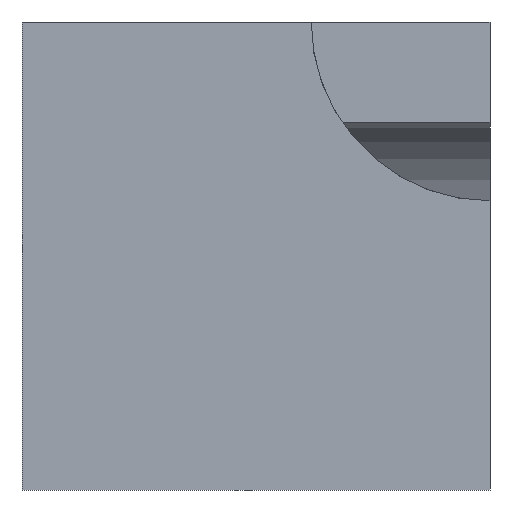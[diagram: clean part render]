
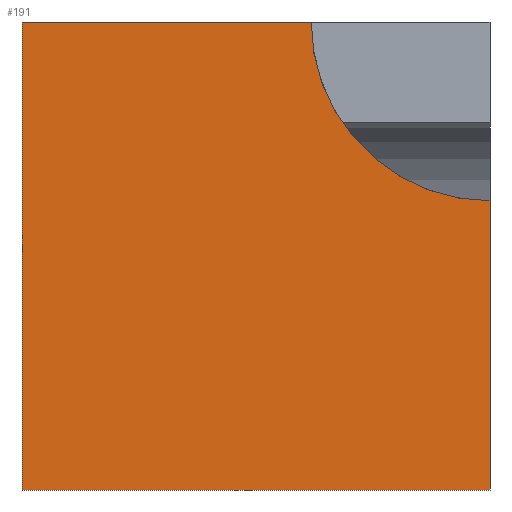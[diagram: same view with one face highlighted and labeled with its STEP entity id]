
A CAD part, front view. The second image highlights one B-rep face of the part: STEP entity #191.
In plain terms, the highlighted planar face has unit normal (0, -1, 0).
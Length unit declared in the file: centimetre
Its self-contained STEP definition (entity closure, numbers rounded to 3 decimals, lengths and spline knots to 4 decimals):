
#16 = EDGE_CURVE ( 'NONE', #377, #220, #265, .T. ) ;
#18 = CARTESIAN_POINT ( 'NONE',  ( 618.0201, 0., 1000. ) ) ;
#29 = ORIENTED_EDGE ( 'NONE', *, *, #315, .F. ) ;
#34 = PLANE ( 'NONE',  #464 ) ;
#50 = CARTESIAN_POINT ( 'NONE',  ( 1000., 0., 1000. ) ) ;
#74 = VECTOR ( 'NONE', #386, 100. ) ;
#84 = VECTOR ( 'NONE', #346, 100. ) ;
#85 = VERTEX_POINT ( 'NONE', #110 ) ;
#100 = ORIENTED_EDGE ( 'NONE', *, *, #448, .T. ) ;
#105 = CIRCLE ( 'NONE', #239, 381.9799 ) ;
#110 = CARTESIAN_POINT ( 'NONE',  ( 0., 0., 0. ) ) ;
#115 = DIRECTION ( 'NONE',  ( 0., 0., 1. ) ) ;
#135 = EDGE_LOOP ( 'NONE', ( #268, #29, #162, #100, #442 ) ) ;
#143 = EDGE_CURVE ( 'NONE', #477, #427, #301, .T. ) ;
#151 = CARTESIAN_POINT ( 'NONE',  ( 0., 0., 1000. ) ) ;
#162 = ORIENTED_EDGE ( 'NONE', *, *, #16, .F. ) ;
#179 = LINE ( 'NONE', #447, #84 ) ;
#188 = FACE_OUTER_BOUND ( 'NONE', #135, .T. ) ;
#191 = ADVANCED_FACE ( 'NONE', ( #188 ), #34, .F. ) ;
#203 = DIRECTION ( 'NONE',  ( 0., -1., 0. ) ) ;
#212 = VECTOR ( 'NONE', #217, 100. ) ;
#217 = DIRECTION ( 'NONE',  ( 1., 0., 0. ) ) ;
#220 = VERTEX_POINT ( 'NONE', #18 ) ;
#227 = CARTESIAN_POINT ( 'NONE',  ( 1000., 0., 0. ) ) ;
#232 = DIRECTION ( 'NONE',  ( 1., 0., 0. ) ) ;
#239 = AXIS2_PLACEMENT_3D ( 'NONE', #50, #203, #251 ) ;
#251 = DIRECTION ( 'NONE',  ( 0., 0., -1. ) ) ;
#264 = VECTOR ( 'NONE', #232, 100. ) ;
#265 = LINE ( 'NONE', #449, #264 ) ;
#268 = ORIENTED_EDGE ( 'NONE', *, *, #143, .F. ) ;
#284 = CARTESIAN_POINT ( 'NONE',  ( 0., 0., 0. ) ) ;
#301 = LINE ( 'NONE', #348, #74 ) ;
#315 = EDGE_CURVE ( 'NONE', #220, #477, #105, .T. ) ;
#346 = DIRECTION ( 'NONE',  ( 0., 0., -1. ) ) ;
#348 = CARTESIAN_POINT ( 'NONE',  ( 1000., 0., 1000. ) ) ;
#360 = EDGE_CURVE ( 'NONE', #85, #427, #465, .T. ) ;
#369 = CARTESIAN_POINT ( 'NONE',  ( 0., 0., 1000. ) ) ;
#377 = VERTEX_POINT ( 'NONE', #369 ) ;
#380 = CARTESIAN_POINT ( 'NONE',  ( 1000., 0., 618.0201 ) ) ;
#386 = DIRECTION ( 'NONE',  ( 0., 0., -1. ) ) ;
#427 = VERTEX_POINT ( 'NONE', #227 ) ;
#442 = ORIENTED_EDGE ( 'NONE', *, *, #360, .T. ) ;
#447 = CARTESIAN_POINT ( 'NONE',  ( 0., 0., 1000. ) ) ;
#448 = EDGE_CURVE ( 'NONE', #377, #85, #179, .T. ) ;
#449 = CARTESIAN_POINT ( 'NONE',  ( 0., 0., 1000. ) ) ;
#452 = DIRECTION ( 'NONE',  ( 0., 1., 0. ) ) ;
#464 = AXIS2_PLACEMENT_3D ( 'NONE', #151, #452, #115 ) ;
#465 = LINE ( 'NONE', #284, #212 ) ;
#477 = VERTEX_POINT ( 'NONE', #380 ) ;
